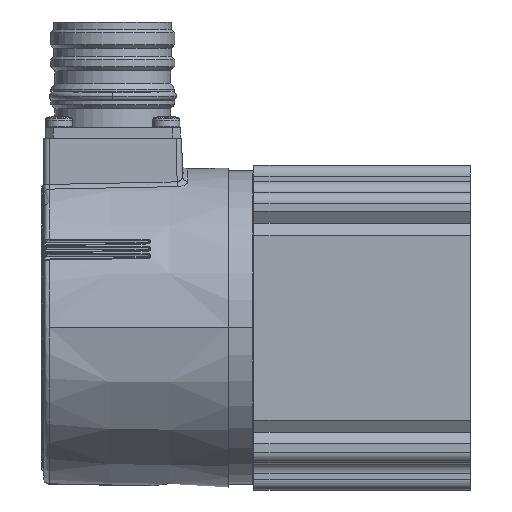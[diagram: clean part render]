
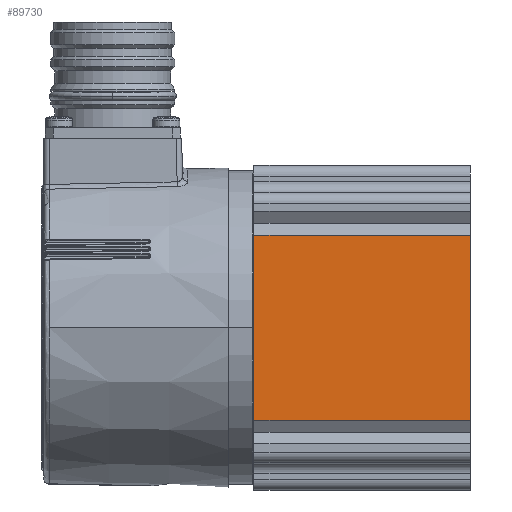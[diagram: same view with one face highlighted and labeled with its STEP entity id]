
A CAD part, front view. The second image highlights one B-rep face of the part: STEP entity #89730.
In plain terms, the highlighted planar face has unit normal (0, -1, 0).
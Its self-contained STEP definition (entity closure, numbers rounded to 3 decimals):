
#86483=DIRECTION('',(1.,0.,0.));
#86484=VECTOR('',#86483,34.172);
#86485=CARTESIAN_POINT('',(-17.086,-30.,0.));
#86486=LINE('',#86485,#86484);
#87338=DIRECTION('',(1.,0.,0.));
#87339=VECTOR('',#87338,34.172);
#87340=CARTESIAN_POINT('',(-17.086,-30.,40.));
#87341=LINE('',#87340,#87339);
#87700=DIRECTION('',(0.,0.,1.));
#87701=VECTOR('',#87700,40.);
#87702=CARTESIAN_POINT('',(-17.086,-30.,0.));
#87703=LINE('',#87702,#87701);
#87707=DIRECTION('',(0.,0.,1.));
#87708=VECTOR('',#87707,40.);
#87709=CARTESIAN_POINT('',(17.086,-30.,0.));
#87710=LINE('',#87709,#87708);
#88684=CARTESIAN_POINT('',(-17.086,-30.,0.));
#88685=VERTEX_POINT('',#88684);
#88686=CARTESIAN_POINT('',(17.086,-30.,0.));
#88687=VERTEX_POINT('',#88686);
#88816=CARTESIAN_POINT('',(-17.086,-30.,40.));
#88817=VERTEX_POINT('',#88816);
#88818=CARTESIAN_POINT('',(17.086,-30.,40.));
#88819=VERTEX_POINT('',#88818);
#89718=CARTESIAN_POINT('',(-17.086,-30.,0.));
#89719=DIRECTION('',(0.,-1.,0.));
#89720=DIRECTION('',(1.,0.,0.));
#89721=AXIS2_PLACEMENT_3D('',#89718,#89719,#89720);
#89722=PLANE('',#89721);
#89723=ORIENTED_EDGE('',*,*,#89088,.F.);
#89724=ORIENTED_EDGE('',*,*,#89713,.T.);
#89725=ORIENTED_EDGE('',*,*,#89348,.T.);
#89727=ORIENTED_EDGE('',*,*,#89726,.F.);
#89728=EDGE_LOOP('',(#89723,#89724,#89725,#89727));
#89729=FACE_OUTER_BOUND('',#89728,.F.);
#89088=EDGE_CURVE('',#88685,#88687,#86486,.T.);
#89348=EDGE_CURVE('',#88817,#88819,#87341,.T.);
#89713=EDGE_CURVE('',#88685,#88817,#87703,.T.);
#89726=EDGE_CURVE('',#88687,#88819,#87710,.T.);
#89730=ADVANCED_FACE('',(#89729),#89722,.T.);
